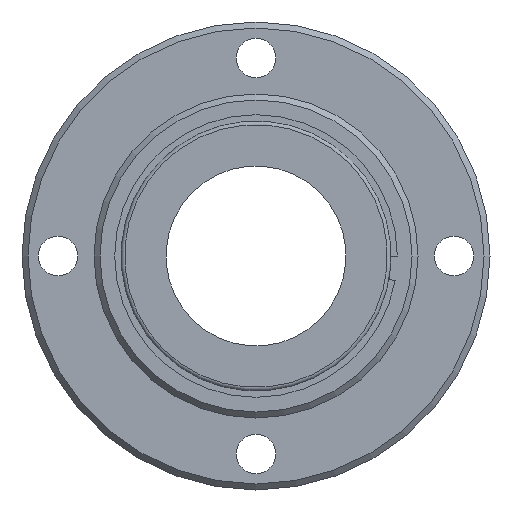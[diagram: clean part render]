
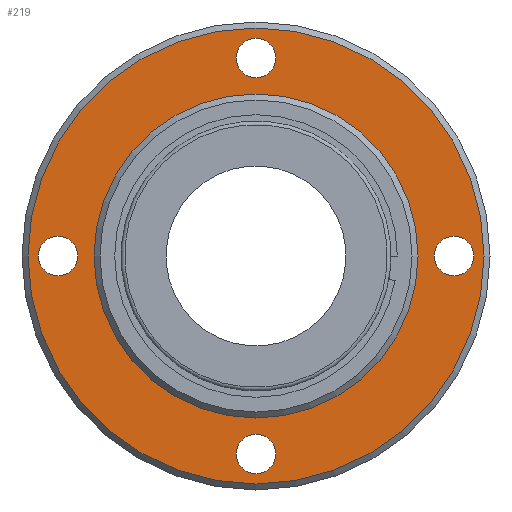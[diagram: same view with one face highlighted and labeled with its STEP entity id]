
A CAD part, left-side view. The second image highlights one B-rep face of the part: STEP entity #219.
In plain terms, the highlighted planar face has unit normal (-1, 0, 0).
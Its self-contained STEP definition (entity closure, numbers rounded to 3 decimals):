
#219=ADVANCED_FACE('',(#262,#263,#264,#265,#266,#267),#268,.T.);
#262=FACE_BOUND('',#384,.T.);
#263=FACE_BOUND('',#385,.T.);
#264=FACE_BOUND('',#386,.T.);
#265=FACE_BOUND('',#387,.T.);
#266=FACE_OUTER_BOUND('',#388,.T.);
#267=FACE_BOUND('',#389,.T.);
#268=PLANE('',#390);
#384=EDGE_LOOP('',(#506));
#385=EDGE_LOOP('',(#507));
#386=EDGE_LOOP('',(#508));
#387=EDGE_LOOP('',(#509));
#388=EDGE_LOOP('',(#510));
#389=EDGE_LOOP('',(#511));
#390=AXIS2_PLACEMENT_3D('',#512,#513,#514);
#506=ORIENTED_EDGE('',*,*,#748,.F.);
#507=ORIENTED_EDGE('',*,*,#749,.F.);
#508=ORIENTED_EDGE('',*,*,#750,.F.);
#509=ORIENTED_EDGE('',*,*,#751,.F.);
#510=ORIENTED_EDGE('',*,*,#752,.T.);
#511=ORIENTED_EDGE('',*,*,#753,.F.);
#512=CARTESIAN_POINT('',(-6.0,27.0,0.0));
#513=DIRECTION('',(-1.0,0.0,0.0));
#514=DIRECTION('',(0.0,0.0,1.0));
#748=EDGE_CURVE('',#806,#806,#807,.T.);
#749=EDGE_CURVE('',#808,#808,#809,.T.);
#750=EDGE_CURVE('',#810,#810,#811,.T.);
#751=EDGE_CURVE('',#812,#812,#813,.T.);
#752=EDGE_CURVE('',#814,#814,#815,.T.);
#753=EDGE_CURVE('',#816,#816,#817,.T.);
#806=VERTEX_POINT('',#914);
#807=CIRCLE('',#915,3.3);
#808=VERTEX_POINT('',#916);
#809=CIRCLE('',#917,3.3);
#810=VERTEX_POINT('',#918);
#811=CIRCLE('',#919,3.3);
#812=VERTEX_POINT('',#920);
#813=CIRCLE('',#921,3.3);
#814=VERTEX_POINT('',#922);
#815=CIRCLE('',#923,38.0);
#816=VERTEX_POINT('',#924);
#817=CIRCLE('',#925,27.0);
#914=CARTESIAN_POINT('',(-6.0,0.0,36.3));
#915=AXIS2_PLACEMENT_3D('',#1038,#1039,#1040);
#916=CARTESIAN_POINT('',(-6.0,33.0,3.3));
#917=AXIS2_PLACEMENT_3D('',#1041,#1042,#1043);
#918=CARTESIAN_POINT('',(-6.0,0.0,-29.7));
#919=AXIS2_PLACEMENT_3D('',#1044,#1045,#1046);
#920=CARTESIAN_POINT('',(-6.0,-33.0,3.3));
#921=AXIS2_PLACEMENT_3D('',#1047,#1048,#1049);
#922=CARTESIAN_POINT('',(-6.0,0.0,38.0));
#923=AXIS2_PLACEMENT_3D('',#1050,#1051,#1052);
#924=CARTESIAN_POINT('',(-6.0,0.0,27.0));
#925=AXIS2_PLACEMENT_3D('',#1053,#1054,#1055);
#1038=CARTESIAN_POINT('',(-6.0,0.0,33.0));
#1039=DIRECTION('',(-1.0,0.0,0.0));
#1040=DIRECTION('',(0.0,0.0,1.0));
#1041=CARTESIAN_POINT('',(-6.0,33.0,0.0));
#1042=DIRECTION('',(-1.0,0.0,0.0));
#1043=DIRECTION('',(0.0,0.0,1.0));
#1044=CARTESIAN_POINT('',(-6.0,0.0,-33.0));
#1045=DIRECTION('',(-1.0,0.0,0.0));
#1046=DIRECTION('',(0.0,0.0,1.0));
#1047=CARTESIAN_POINT('',(-6.0,-33.0,0.0));
#1048=DIRECTION('',(-1.0,0.0,0.0));
#1049=DIRECTION('',(0.0,0.0,1.0));
#1050=CARTESIAN_POINT('',(-6.0,0.0,0.0));
#1051=DIRECTION('',(-1.0,0.0,0.0));
#1052=DIRECTION('',(0.0,0.0,1.0));
#1053=CARTESIAN_POINT('',(-6.0,0.0,0.0));
#1054=DIRECTION('',(-1.0,0.0,0.0));
#1055=DIRECTION('',(0.0,0.0,1.0));
